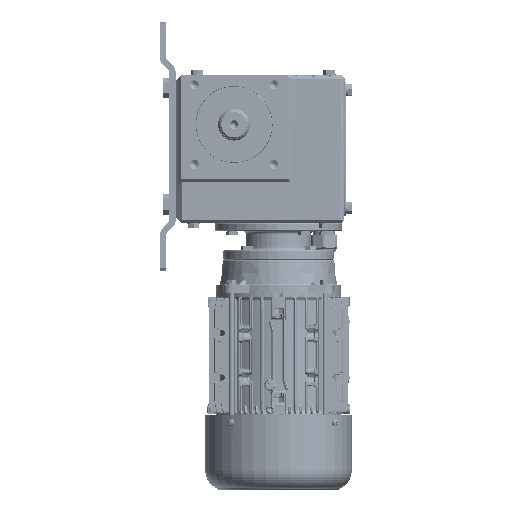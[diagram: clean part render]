
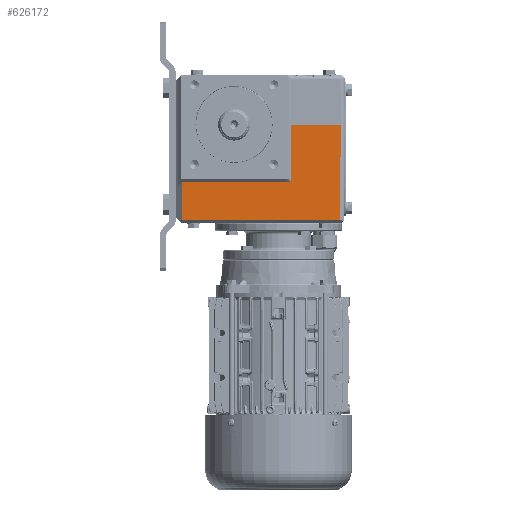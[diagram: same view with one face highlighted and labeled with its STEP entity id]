
A CAD part, left-side view. The second image highlights one B-rep face of the part: STEP entity #626172.
In plain terms, the highlighted planar face has unit normal (-1, 0, -0.009).
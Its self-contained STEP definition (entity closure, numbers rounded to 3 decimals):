
#4355 = LINE ( 'NONE', #676312, #29889 ) ;
#29889 = VECTOR ( 'NONE', #253733, 1000. ) ;
#63858 = LINE ( 'NONE', #101426, #613110 ) ;
#66435 = VERTEX_POINT ( 'NONE', #545833 ) ;
#67059 = CARTESIAN_POINT ( 'NONE',  ( -93., -53.5, 0. ) ) ;
#70979 = EDGE_CURVE ( 'NONE', #390851, #210160, #346996, .T. ) ;
#101426 = CARTESIAN_POINT ( 'NONE',  ( -92.529, 53., -53.971 ) ) ;
#103073 = CARTESIAN_POINT ( 'NONE',  ( -93., -100.756, 0. ) ) ;
#113945 = VECTOR ( 'NONE', #240798, 1000. ) ;
#115842 = VECTOR ( 'NONE', #276278, 1000. ) ;
#116324 = DIRECTION ( 'NONE',  ( -1., 0., -0.009 ) ) ;
#122516 = CARTESIAN_POINT ( 'NONE',  ( -93.008, -53.492, 0.929 ) ) ;
#128067 = LINE ( 'NONE', #143996, #393522 ) ;
#132019 = DIRECTION ( 'NONE',  ( 0., -1., 0. ) ) ;
#132029 = CARTESIAN_POINT ( 'NONE',  ( -93., 53., 0. ) ) ;
#143996 = CARTESIAN_POINT ( 'NONE',  ( -93., 53., 0. ) ) ;
#155625 = LINE ( 'NONE', #388975, #115842 ) ;
#164133 = CARTESIAN_POINT ( 'NONE',  ( -92.536, -53.964, -53.188 ) ) ;
#172026 = CARTESIAN_POINT ( 'NONE',  ( -92.529, -51.85, -53.971 ) ) ;
#182893 = ORIENTED_EDGE ( 'NONE', *, *, #265148, .F. ) ;
#188943 = CARTESIAN_POINT ( 'NONE',  ( -93., -100.757, 0. ) ) ;
#210160 = VERTEX_POINT ( 'NONE', #729719 ) ;
#210862 = EDGE_CURVE ( 'NONE', #474888, #259467, #128067, .T. ) ;
#211622 = EDGE_CURVE ( 'NONE', #66435, #210160, #63858, .T. ) ;
#229105 = VERTEX_POINT ( 'NONE', #665459 ) ;
#240798 = DIRECTION ( 'NONE',  ( 0., -1., 0. ) ) ;
#253733 = DIRECTION ( 'NONE',  ( 0., -1., 0. ) ) ;
#259467 = VERTEX_POINT ( 'NONE', #103073 ) ;
#265148 = EDGE_CURVE ( 'NONE', #259467, #391755, #743609, .T. ) ;
#276278 = DIRECTION ( 'NONE',  ( 0.009, -0.009, -1. ) ) ;
#289493 = PLANE ( 'NONE',  #728961 ) ;
#307095 = CARTESIAN_POINT ( 'NONE',  ( -92.215, -99.972, -90. ) ) ;
#313566 = EDGE_LOOP ( 'NONE', ( #492155, #748209, #759374, #182893, #501011, #318298, #504996, #741620 ) ) ;
#318298 = ORIENTED_EDGE ( 'NONE', *, *, #530405, .F. ) ;
#346996 =( BOUNDED_CURVE ( )  B_SPLINE_CURVE ( 3, ( #650860, #164133, #594234, #172026 ),
 .UNSPECIFIED., .F., .F. ) 
 B_SPLINE_CURVE_WITH_KNOTS ( ( 4, 4 ),
 ( 2.61, 3.658 ),
 .UNSPECIFIED. ) 
 CURVE ( )  GEOMETRIC_REPRESENTATION_ITEM ( )  RATIONAL_B_SPLINE_CURVE ( ( 1., 0.911, 0.911, 1. ) ) 
 REPRESENTATION_ITEM ( '' )  );
#354585 = EDGE_CURVE ( 'NONE', #500918, #391755, #759367, .T. ) ;
#357685 = DIRECTION ( 'NONE',  ( -0.009, 0., 1. ) ) ;
#365591 = FACE_OUTER_BOUND ( 'NONE', #313566, .T. ) ;
#369398 = DIRECTION ( 'NONE',  ( 0., -1., 0. ) ) ;
#388975 = CARTESIAN_POINT ( 'NONE',  ( -92.585, 49.585, -47.5 ) ) ;
#390851 = VERTEX_POINT ( 'NONE', #686648 ) ;
#391755 = VERTEX_POINT ( 'NONE', #188943 ) ;
#393522 = VECTOR ( 'NONE', #132019, 1000. ) ;
#412145 = EDGE_CURVE ( 'NONE', #229105, #500918, #4355, .T. ) ;
#474888 = VERTEX_POINT ( 'NONE', #67059 ) ;
#492155 = ORIENTED_EDGE ( 'NONE', *, *, #538787, .T. ) ;
#500918 = VERTEX_POINT ( 'NONE', #307095 ) ;
#501011 = ORIENTED_EDGE ( 'NONE', *, *, #210862, .F. ) ;
#504996 = ORIENTED_EDGE ( 'NONE', *, *, #70979, .T. ) ;
#530405 = EDGE_CURVE ( 'NONE', #390851, #474888, #548660, .T. ) ;
#538787 = EDGE_CURVE ( 'NONE', #66435, #229105, #155625, .T. ) ;
#545833 = CARTESIAN_POINT ( 'NONE',  ( -92.529, 49.529, -53.971 ) ) ;
#548660 = LINE ( 'NONE', #122516, #570402 ) ;
#565986 = CARTESIAN_POINT ( 'NONE',  ( -93., -100.757, 0.011 ) ) ;
#570402 = VECTOR ( 'NONE', #782590, 1000. ) ;
#594234 = CARTESIAN_POINT ( 'NONE',  ( -92.529, -53.195, -53.971 ) ) ;
#613110 = VECTOR ( 'NONE', #369398, 1000. ) ;
#626172 = ADVANCED_FACE ( 'NONE', ( #365591 ), #289493, .T. ) ;
#638995 = VECTOR ( 'NONE', #755371, 1000. ) ;
#650860 = CARTESIAN_POINT ( 'NONE',  ( -92.548, -53.952, -51.831 ) ) ;
#655610 = CARTESIAN_POINT ( 'NONE',  ( -93., 53., 0. ) ) ;
#665459 = CARTESIAN_POINT ( 'NONE',  ( -92.215, 49.215, -90. ) ) ;
#676312 = CARTESIAN_POINT ( 'NONE',  ( -92.215, 53., -90. ) ) ;
#686648 = CARTESIAN_POINT ( 'NONE',  ( -92.548, -53.952, -51.831 ) ) ;
#728961 = AXIS2_PLACEMENT_3D ( 'NONE', #655610, #116324, #357685 ) ;
#729719 = CARTESIAN_POINT ( 'NONE',  ( -92.529, -51.85, -53.971 ) ) ;
#741620 = ORIENTED_EDGE ( 'NONE', *, *, #211622, .F. ) ;
#743609 = LINE ( 'NONE', #132029, #113945 ) ;
#748209 = ORIENTED_EDGE ( 'NONE', *, *, #412145, .T. ) ;
#755371 = DIRECTION ( 'NONE',  ( -0.009, -0.009, 1. ) ) ;
#759367 = LINE ( 'NONE', #565986, #638995 ) ;
#759374 = ORIENTED_EDGE ( 'NONE', *, *, #354585, .T. ) ;
#782590 = DIRECTION ( 'NONE',  ( -0.009, 0.009, 1. ) ) ;
